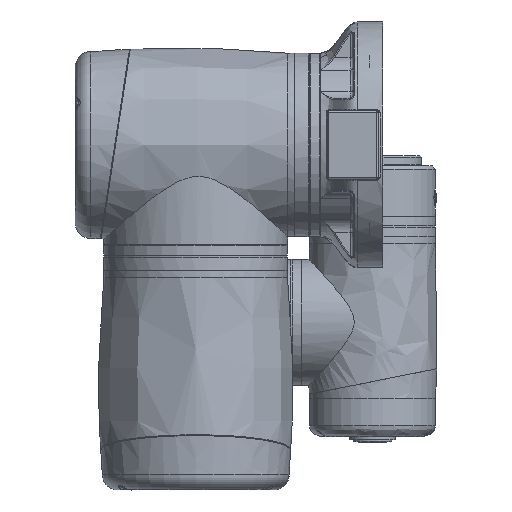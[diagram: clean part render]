
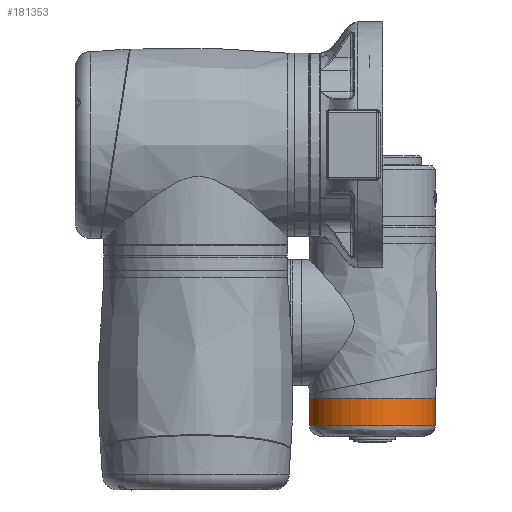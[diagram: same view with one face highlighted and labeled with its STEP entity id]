
A CAD part, left-side view. The second image highlights one B-rep face of the part: STEP entity #181353.
In plain terms, the highlighted cylindrical face has radius 40.5 mm (diameter 81 mm), a full revolution.
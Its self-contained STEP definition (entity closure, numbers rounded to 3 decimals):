
#3868 = CARTESIAN_POINT ( 'NONE',  ( 0., 116.996, 0. ) ) ;
#5240 = CIRCLE ( 'NONE', #7865, 40.5 ) ;
#7865 = AXIS2_PLACEMENT_3D ( 'NONE', #71795, #179389, #43639 ) ;
#15353 = VERTEX_POINT ( 'NONE', #75078 ) ;
#17364 = DIRECTION ( 'NONE',  ( 0., -1., 0. ) ) ;
#19234 = DIRECTION ( 'NONE',  ( 1., 0., 0. ) ) ;
#20810 = VERTEX_POINT ( 'NONE', #148462 ) ;
#35785 = AXIS2_PLACEMENT_3D ( 'NONE', #182987, #165011, #73458 ) ;
#38632 = EDGE_CURVE ( 'NONE', #20810, #89036, #5240, .T. ) ;
#43639 = DIRECTION ( 'NONE',  ( 1., 0., 0. ) ) ;
#46097 = CARTESIAN_POINT ( 'NONE',  ( -40.5, 116.996, 0. ) ) ;
#54221 = EDGE_LOOP ( 'NONE', ( #83515, #73184 ) ) ;
#54982 = EDGE_CURVE ( 'NONE', #63233, #15353, #175645, .T. ) ;
#62061 = AXIS2_PLACEMENT_3D ( 'NONE', #64363, #171293, #186652 ) ;
#63233 = VERTEX_POINT ( 'NONE', #187604 ) ;
#63740 = FACE_OUTER_BOUND ( 'NONE', #157983, .T. ) ;
#64363 = CARTESIAN_POINT ( 'NONE',  ( 0., 134.496, 0. ) ) ;
#70695 = EDGE_CURVE ( 'NONE', #89036, #20810, #121677, .T. ) ;
#71795 = CARTESIAN_POINT ( 'NONE',  ( 0., 116.996, 0. ) ) ;
#73184 = ORIENTED_EDGE ( 'NONE', *, *, #77443, .T. ) ;
#73458 = DIRECTION ( 'NONE',  ( 1., 0., 0. ) ) ;
#75078 = CARTESIAN_POINT ( 'NONE',  ( 35.074, 134.496, 20.25 ) ) ;
#77443 = EDGE_CURVE ( 'NONE', #15353, #63233, #190400, .T. ) ;
#83515 = ORIENTED_EDGE ( 'NONE', *, *, #54982, .T. ) ;
#85205 = FACE_OUTER_BOUND ( 'NONE', #54221, .T. ) ;
#89036 = VERTEX_POINT ( 'NONE', #46097 ) ;
#114591 = ORIENTED_EDGE ( 'NONE', *, *, #38632, .F. ) ;
#121677 = CIRCLE ( 'NONE', #166417, 40.5 ) ;
#138951 = CARTESIAN_POINT ( 'NONE',  ( 0., 12.996, 0. ) ) ;
#148462 = CARTESIAN_POINT ( 'NONE',  ( 40.5, 116.996, 0. ) ) ;
#152985 = DIRECTION ( 'NONE',  ( 1., 0., 0. ) ) ;
#157983 = EDGE_LOOP ( 'NONE', ( #172830, #114591 ) ) ;
#165011 = DIRECTION ( 'NONE',  ( 0., -1., 0. ) ) ;
#166417 = AXIS2_PLACEMENT_3D ( 'NONE', #3868, #174191, #19234 ) ;
#171293 = DIRECTION ( 'NONE',  ( 0., -1., 0. ) ) ;
#172830 = ORIENTED_EDGE ( 'NONE', *, *, #70695, .F. ) ;
#174191 = DIRECTION ( 'NONE',  ( 0., -1., 0. ) ) ;
#175645 = CIRCLE ( 'NONE', #62061, 40.5 ) ;
#179389 = DIRECTION ( 'NONE',  ( 0., -1., 0. ) ) ;
#180925 = CYLINDRICAL_SURFACE ( 'NONE', #186308, 40.5 ) ;
#181353 = ADVANCED_FACE ( 'NONE', ( #85205, #63740 ), #180925, .T. ) ;
#182987 = CARTESIAN_POINT ( 'NONE',  ( 0., 134.496, 0. ) ) ;
#186308 = AXIS2_PLACEMENT_3D ( 'NONE', #138951, #17364, #152985 ) ;
#186652 = DIRECTION ( 'NONE',  ( 1., 0., 0. ) ) ;
#187604 = CARTESIAN_POINT ( 'NONE',  ( -35.074, 134.496, -20.25 ) ) ;
#190400 = CIRCLE ( 'NONE', #35785, 40.5 ) ;
